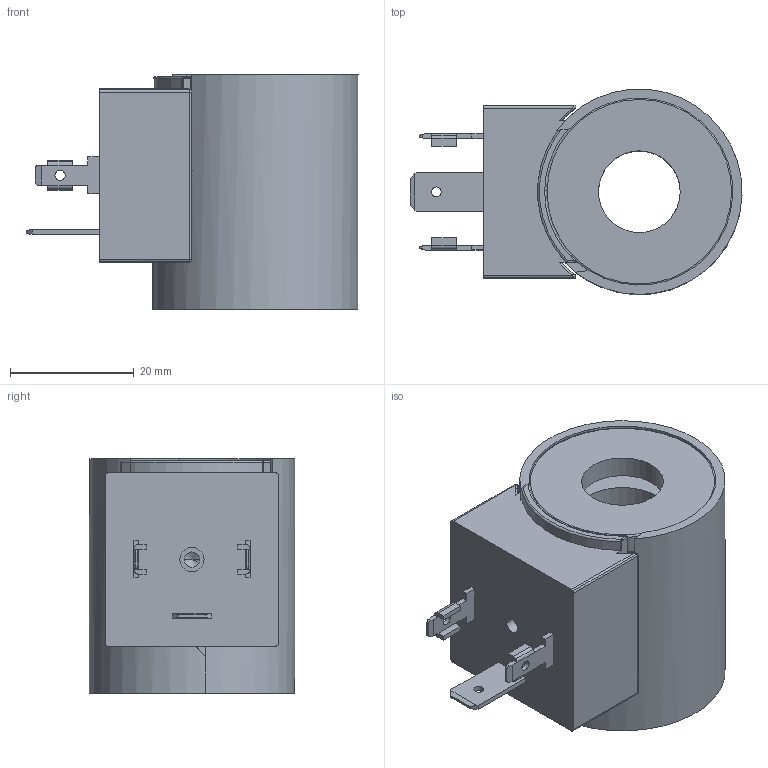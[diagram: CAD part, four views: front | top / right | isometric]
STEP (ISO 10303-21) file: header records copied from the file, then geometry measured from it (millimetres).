
FILE_DESCRIPTION (( 'STEP AP214' ), '1' );
FILE_NAME ('WDE34_13x38.STEP', '2026-07-14T11:24:58', ( '' ), ( '' ), 'SwSTEP 2.0', 'SolidWorks 2024', '' );
FILE_SCHEMA (( 'AUTOMOTIVE_DESIGN' ));
Length unit declared in the file: millimetre
Products named in the file (1): WDE34_13x38
Bounding box: 53.64 x 33.18 x 37.9 mm (x, y, z)
Volume: 31661.7 mm3; surface area: 26658.8 mm2
Topology: 8 solids, 8 shells, 607 faces, 1649 edges, 1066 vertices
Faces by surface type: plane 329, cylinder 225, sphere 26, torus 17, cone 6, bspline 4
Entity records: 19813 total; most frequent: CARTESIAN_POINT 4095, ORIENTED_EDGE 3294, DIRECTION 3287, EDGE_CURVE 1647, AXIS2_PLACEMENT_3D 1114, VERTEX_POINT 1066, VECTOR 1059, LINE 1059
